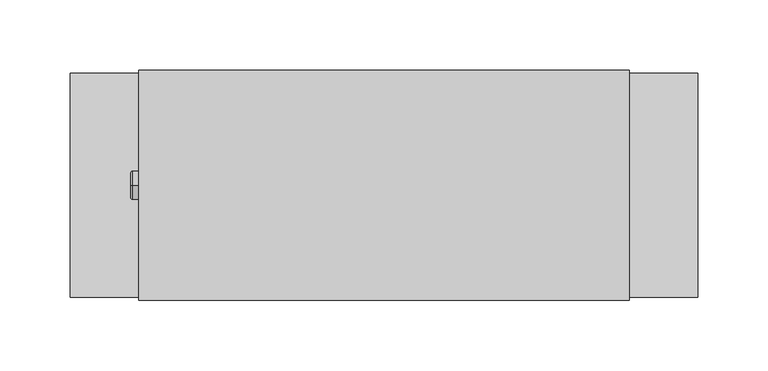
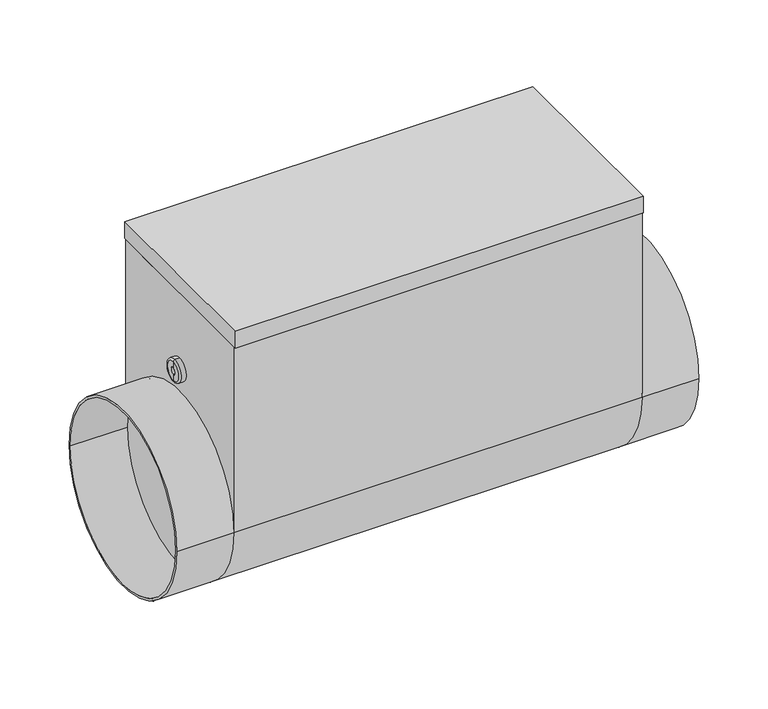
"""IFC4 building model written with IfcOpenShell, lengths in millimetres: proxy geometry, СВ_ВоздухонагревательЭлектрический_КанальныйКруглый_DN100-315_SKH-E : SKH-E-160/6."""

from ifc_helpers import new_model, si_unit, point, frame, origin, place, context, project, spatial, polyline, circle_curve, ellipse_curve, trimmed, outline, extrude, source, transform, mapped, element, save
from ifc_brep_helpers import plane_surface, cylinder_surface, revolved_surface, advanced_brep


def mechanical_equipment_2d57af06(model_context):
    return source(origin(), model_context, "Body", "SolidModel", [
        extrude(outline(polyline([(174.0, -81.5), (-174.0, -81.5), (-174.0, 81.5), (174.0, 81.5), (174.0, -81.5)])), frame((0.0, 0.0, 167.5), z_axis=(0.0, 0.0, 1.0), x_axis=(1.0, 0.0, 0.0)), (0.0, 0.0, 1.0), 15.0),
        advanced_brep(
        [(-222.5, -79.5, 0.0), (-222.5, 79.5, 0.0), (-222.5, -77.5, 0.0), (-222.5, 77.5, 0.0), (-174.0, 77.5, 0.0), (-174.0, -77.5, 0.0), (-174.0, 79.5, 0.0), (-174.0, -79.5, 0.0), (174.0, -77.5, 0.0), (174.0, 77.5, 0.0), (174.0, -79.5, 167.5), (174.0, -79.5, 0.0), (174.0, 79.5, 0.0), (174.0, 79.5, 167.5), (-174.0, -79.5, 167.5), (-174.0, 79.5, 167.5), (222.5, -79.5, 0.0), (222.5, 79.5, 0.0), (222.5, -77.5, 0.0), (222.5, 77.5, 0.0)],
        [
            (0, 1, circle_curve(frame((-222.5, 0.0, 0.0), z_axis=(-1.0, 0.0, 0.0), x_axis=(0.0, 1.0, 0.0)), 79.5)),
            (1, 0, circle_curve(frame((-222.5, 0.0, 0.0), z_axis=(-1.0, 0.0, 0.0), x_axis=(0.0, 1.0, 0.0)), 79.5)),
            (2, 3, circle_curve(frame((-222.5, 0.0, 0.0), z_axis=(1.0, 0.0, 0.0), x_axis=(0.0, 1.0, 0.0)), 77.5)),
            (3, 2, circle_curve(frame((-222.5, 0.0, 0.0), z_axis=(1.0, 0.0, 0.0), x_axis=(0.0, 1.0, 0.0)), 77.5)),
            (3, 4),
            (4, 5, circle_curve(frame((-174.0, 0.0, 0.0), z_axis=(1.0, 0.0, 0.0), x_axis=(0.0, 1.0, 0.0)), 77.5)),
            (5, 2),
            (5, 4, circle_curve(frame((-174.0, 0.0, 0.0), z_axis=(1.0, 0.0, 0.0), x_axis=(0.0, 1.0, 0.0)), 77.5)),
            (1, 6),
            (6, 7, circle_curve(frame((-174.0, 0.0, 0.0), z_axis=(-1.0, 0.0, 0.0), x_axis=(0.0, 1.0, 0.0)), 79.5)),
            (7, 0),
            (7, 6, circle_curve(frame((-174.0, 0.0, 0.0), z_axis=(-1.0, 0.0, 0.0), x_axis=(0.0, 1.0, 0.0)), 79.5)),
            (8, 9, circle_curve(frame((174.0, 0.0, 0.0), z_axis=(1.0, 0.0, 0.0), x_axis=(0.0, 1.0, 0.0)), 77.5)),
            (9, 8, circle_curve(frame((174.0, 0.0, 0.0), z_axis=(1.0, 0.0, 0.0), x_axis=(0.0, 1.0, 0.0)), 77.5)),
            (10, 11),
            (11, 12, circle_curve(frame((174.0, 0.0, 0.0), z_axis=(-1.0, 0.0, 0.0), x_axis=(0.0, 1.0, 0.0)), 79.5)),
            (12, 13),
            (13, 10),
            (7, 14),
            (14, 15),
            (15, 6),
            (6, 12),
            (12, 11, circle_curve(frame((174.0, 0.0, 0.0), z_axis=(-1.0, 0.0, 0.0), x_axis=(0.0, 1.0, 0.0)), 79.5)),
            (11, 7),
            (16, 17, circle_curve(frame((222.5, 0.0, 0.0), z_axis=(1.0, 0.0, 0.0), x_axis=(0.0, 1.0, 0.0)), 79.5)),
            (17, 16, circle_curve(frame((222.5, 0.0, 0.0), z_axis=(1.0, 0.0, 0.0), x_axis=(0.0, 1.0, 0.0)), 79.5)),
            (18, 19, circle_curve(frame((222.5, 0.0, 0.0), z_axis=(-1.0, 0.0, 0.0), x_axis=(0.0, 1.0, 0.0)), 77.5)),
            (19, 18, circle_curve(frame((222.5, 0.0, 0.0), z_axis=(-1.0, 0.0, 0.0), x_axis=(0.0, 1.0, 0.0)), 77.5)),
            (18, 8),
            (9, 19),
            (16, 11),
            (12, 17),
            (10, 14),
            (15, 13),
        ],
        [
            plane_surface(frame((-222.5, 77.5, 0.0), z_axis=(-1.0, 0.0, 0.0), x_axis=(0.0, 0.0, 1.0))),
            revolved_surface(polyline([(-222.5, 77.5, 0.0), (-174.0, 77.5, 0.0)]), (-222.5, 0.0, 0.0), (-1.0, 0.0, 0.0)),
            cylinder_surface(frame((0.0, 0.0, 0.0), z_axis=(1.0, 0.0, 0.0), x_axis=(0.0, 1.0, 0.0)), 79.5),
            plane_surface(frame((174.0, 79.5, 0.0), z_axis=(1.0, 0.0, 0.0), x_axis=(0.0, -1.0, 0.0))),
            plane_surface(frame((-174.0, 79.5, 0.0), z_axis=(-1.0, 0.0, 0.0), x_axis=(0.0, 1.0, 0.0))),
            cylinder_surface(frame((-174.0, 0.0, 0.0), z_axis=(1.0, 0.0, 0.0), x_axis=(0.0, 1.0, 0.0)), 79.5),
            plane_surface(frame((222.5, 77.5, 0.0), z_axis=(1.0, 0.0, 0.0), x_axis=(0.0, 0.0, -1.0))),
            revolved_surface(polyline([(174.0, 77.5, 0.0), (222.5, 77.5, 0.0)]), (174.0, 0.0, 0.0), (-1.0, 0.0, 0.0)),
            plane_surface(frame((-174.0, -79.5, 167.5), z_axis=(0.0, -1.0, 0.0), x_axis=(-1.0, 0.0, 0.0))),
            plane_surface(frame((-174.0, 79.5, 167.5), z_axis=(0.0, 1.0, 0.0), x_axis=(1.0, 0.0, 0.0))),
            plane_surface(frame((174.0, -79.5, 167.5), z_axis=(0.0, 0.0, 1.0), x_axis=(0.0, 1.0, 0.0))),
        ],
        [
            (0, [[1, 2], [3, 4]]),
            (1, [[-4, 5, 6, 7]]),
            (1, [[-3, -7, 8, -5]]),
            (2, [[-2, 9, 10, 11]]),
            (2, [[-1, -11, 12, -9]]),
            (3, [[13, 14]]),
            (3, [[15, 16, 17, 18]]),
            (4, [[-8, -6]]),
            (4, [[19, 20, 21, -12]]),
            (5, [[-10, 22, 23, 24]]),
            (6, [[25, 26], [27, 28]]),
            (7, [[-27, 29, -14, 30]]),
            (7, [[-28, -30, -13, -29]]),
            (2, [[-25, 31, -23, 32]]),
            (2, [[-26, -32, -16, -31]]),
            (8, [[33, -19, -24, -15]]),
            (9, [[-17, -22, -21, 34]]),
            (10, [[-33, -18, -34, -20]]),
        ],
    ),
        advanced_brep(
        [(-178.2840134, 0.0, 89.5), (-178.2840134, 0.0, 109.5), (-174.0, 0.0, 109.5), (-174.0, 0.0, 89.5), (-179.7459771, 0.0, 90.9619637), (-179.7459771, 0.0, 108.0380363), (-179.7459771, 0.0, 96.3948071), (-179.7459771, 0.0, 102.6051929), (-177.4138357, 0.0, 96.3948071), (-177.4138357, 0.0, 102.6051929), (-177.4138357, 0.0, 99.5), (-174.0, 0.0, 99.5)],
        [
            (0, 1, circle_curve(frame((-178.2840134, 0.0, 99.5), z_axis=(1.0, 0.0, 0.0), x_axis=(0.0, 0.0, 1.0)), 10.0)),
            (1, 2),
            (2, 3, circle_curve(frame((-174.0, 0.0, 99.5), z_axis=(-1.0, 0.0, 0.0), x_axis=(0.0, 0.0, 1.0)), 10.0)),
            (3, 0),
            (1, 0, circle_curve(frame((-178.2840134, 0.0, 99.5), z_axis=(1.0, 0.0, 0.0), x_axis=(0.0, 0.0, 1.0)), 10.0)),
            (3, 2, circle_curve(frame((-174.0, 0.0, 99.5), z_axis=(-1.0, 0.0, 0.0), x_axis=(0.0, 0.0, 1.0)), 10.0)),
            (4, 5, circle_curve(frame((-179.7459771, 0.0, 99.5), z_axis=(1.0, 0.0, 0.0), x_axis=(0.0, 0.0, 1.0)), 8.5380363)),
            (5, 1, circle_curve(frame((-178.2840134, 0.0, 108.0380363), z_axis=(0.0, 1.0, 0.0), x_axis=(1.0, 0.0, 0.0)), 1.4619637)),
            (0, 4, circle_curve(frame((-178.2840134, 0.0, 90.9619637), z_axis=(0.0, 1.0, 0.0), x_axis=(1.0, 0.0, 0.0)), 1.4619637)),
            (5, 4, circle_curve(frame((-179.7459771, 0.0, 99.5), z_axis=(1.0, 0.0, 0.0), x_axis=(0.0, 0.0, 1.0)), 8.5380363)),
            (6, 7, circle_curve(frame((-179.7459771, 0.0, 99.5), z_axis=(1.0, 0.0, 0.0), x_axis=(0.0, 0.0, 1.0)), 3.1051929)),
            (7, 5),
            (4, 6),
            (7, 6, circle_curve(frame((-179.7459771, 0.0, 99.5), z_axis=(1.0, 0.0, 0.0), x_axis=(0.0, 0.0, 1.0)), 3.1051929)),
            (8, 9, circle_curve(frame((-177.4138357, 0.0, 99.5), z_axis=(1.0, 0.0, 0.0), x_axis=(0.0, 0.0, 1.0)), 3.1051929)),
            (9, 7),
            (6, 8),
            (9, 8, circle_curve(frame((-177.4138357, 0.0, 99.5), z_axis=(1.0, 0.0, 0.0), x_axis=(0.0, 0.0, 1.0)), 3.1051929)),
            (10, 9),
            (8, 10),
            (2, 11),
            (11, 3),
        ],
        [
            cylinder_surface(frame((-209.6635229, 0.0, 99.5), z_axis=(-1.0, 0.0, 0.0), x_axis=(0.0, 0.0, 1.0)), 10.0),
            revolved_surface(trimmed(ellipse_curve(frame((-178.2840134, 0.0, 108.0380363), z_axis=(0.0, -1.0, 0.0), x_axis=(1.0, 0.0, 0.0)), 1.4619637, 1.4619637), [point((-178.2840134, 0.0, 109.5))], [point((-179.7459771, 0.0, 108.0380363))], True, "CARTESIAN"), (-209.6635229, 0.0, 99.5), (-1.0, 0.0, 0.0)),
            plane_surface(frame((-179.7459771, 0.0, 99.5), z_axis=(-1.0, 0.0, 0.0), x_axis=(0.0, 0.0, 1.0))),
            revolved_surface(polyline([(-179.7459771, 0.0, 102.6051929), (-177.4138357, 0.0, 102.6051929)]), (-209.6635229, 0.0, 99.5), (-1.0, 0.0, 0.0)),
            plane_surface(frame((-177.4138357, 0.0, 99.5), z_axis=(-1.0, 0.0, 0.0), x_axis=(0.0, 0.0, 1.0))),
            plane_surface(frame((-174.0, 0.0, 99.5), z_axis=(1.0, 0.0, 0.0), x_axis=(0.0, 0.0, 1.0))),
        ],
        [
            (0, [[1, 2, 3, 4]]),
            (0, [[5, -4, 6, -2]]),
            (1, [[7, 8, -1, 9]]),
            (1, [[10, -9, -5, -8]]),
            (2, [[11, 12, -7, 13]]),
            (2, [[14, -13, -10, -12]]),
            (3, [[15, 16, -11, 17]]),
            (3, [[18, -17, -14, -16]]),
            (4, [[19, -15, 20]]),
            (4, [[-20, -18, -19]]),
            (5, [[-3, 21, 22]]),
            (5, [[-6, -22, -21]]),
        ],
    ),
    ])


if __name__ == "__main__":
    model = new_model("IFC4")
    model_context = context("Model", 3, world=origin())
    ifc_project = project(units=[si_unit("LENGTHUNIT", "METRE", prefix="MILLI")], contexts=[model_context])
    site = spatial("IfcSite", under=ifc_project)
    building = spatial("IfcBuilding", under=site)
    placement = place(None, origin())
    mechanical_equipment_shape = mechanical_equipment_2d57af06(model_context)
    element("IfcBuildingElementProxy", 1, Name="СВ_ВоздухонагревательЭлектрический_КанальныйКруглый_DN100-315_SKH-E : SKH-E-160/6", ObjectType="СВ_ВоздухонагревательЭлектрический_КанальныйКруглый_DN100-315_SKH-E : SKH-E-160/6", at=placement, inside=building, context=model_context, shape_type="MappedRepresentation", body=[
        mapped(mechanical_equipment_shape, transform((0.0, 0.0, 0.0), x_axis=(1.0, 0.0, 0.0), y_axis=(0.0, 1.0, 0.0), z_axis=(0.0, 0.0, 1.0))),
    ])
    save(model, "model.ifc")
